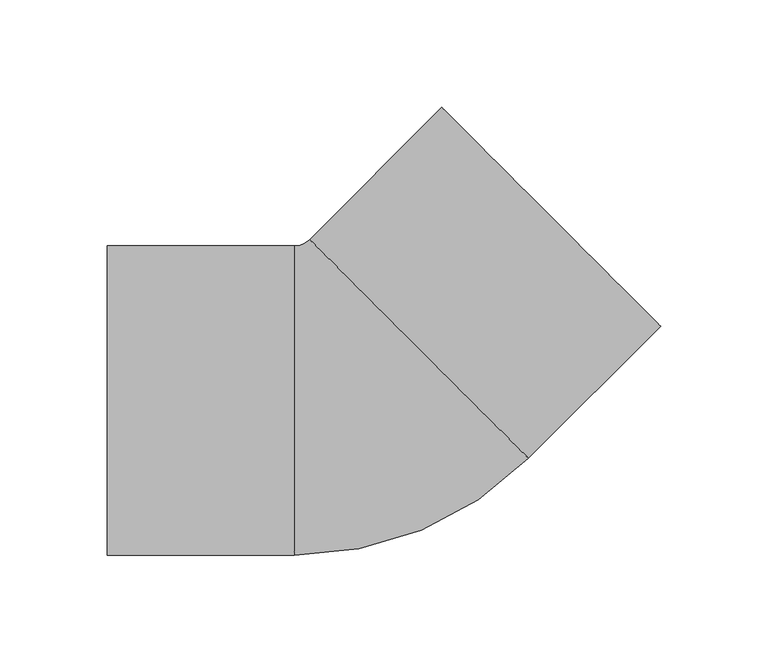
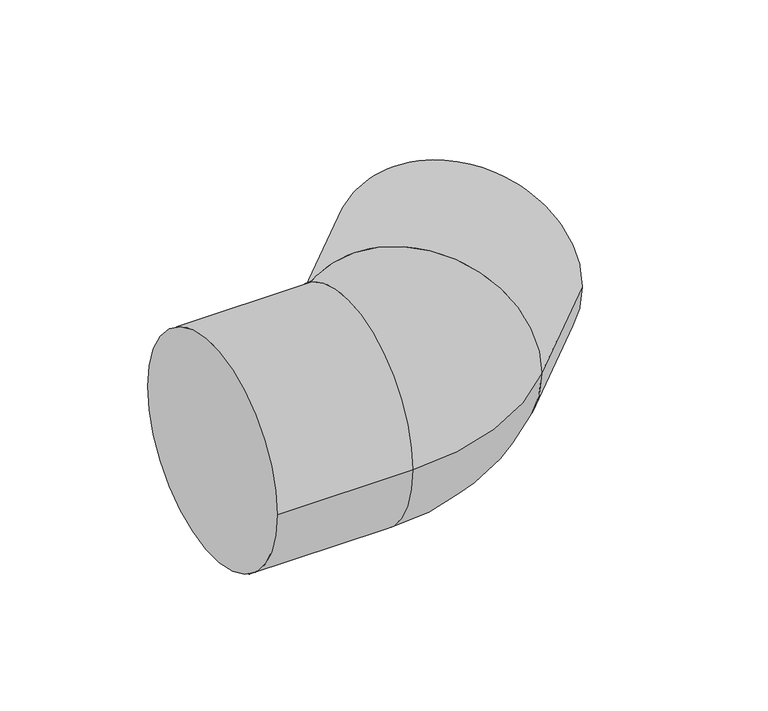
"""IFC4 building model written with IfcOpenShell, lengths in millimetres: pipe fitting geometry, 01051067 : Coudes à 45º."""

from ifc_helpers import new_model, si_unit, point, frame, origin, place, context, project, spatial, circle_curve, ellipse_curve, trimmed, source, transform, mapped, element, save
from ifc_brep_helpers import plane_surface, cylinder_surface, revolved_surface, advanced_brep


def pipe_fitting_3c722be0(model_context):
    return source(origin(), model_context, "Body", "AdvancedBrep", [
        advanced_brep(
        [(-121.0, -72.0, 0.0), (-121.0, 72.0, 0.0), (-34.0, -72.0, 0.0), (-34.0, 72.0, 0.0), (-26.8700577, 74.9533188, 0.0), (74.9533188, -26.8700577, 0.0), (136.4716088, 34.6482323, 0.0), (34.6482323, 136.4716088, 0.0)],
        [
            (0, 1, circle_curve(frame((-121.0, 0.0, 0.0), z_axis=(-1.0, 0.0, 0.0), x_axis=(0.0, 1.0, 0.0)), 72.0)),
            (1, 0, circle_curve(frame((-121.0, 0.0, 0.0), z_axis=(-1.0, 0.0, 0.0), x_axis=(0.0, 1.0, 0.0)), 72.0)),
            (0, 2),
            (2, 3, circle_curve(frame((-34.0, 0.0, 0.0), z_axis=(-1.0, 0.0, 0.0), x_axis=(0.0, 1.0, 0.0)), 72.0)),
            (3, 1),
            (3, 2, circle_curve(frame((-34.0, 0.0, 0.0), z_axis=(-1.0, 0.0, 0.0), x_axis=(0.0, 1.0, 0.0)), 72.0)),
            (4, 3, circle_curve(frame((-34.0, 82.0832611, 0.0), z_axis=(0.0, 0.0, -1.0), x_axis=(0.0, -1.0, 0.0)), 10.0832611)),
            (2, 5, circle_curve(frame((-34.0, 82.0832611, 0.0), z_axis=(0.0, 0.0, 1.0), x_axis=(0.0, -1.0, 0.0)), 154.0832611)),
            (5, 4, circle_curve(frame((24.0416306, 24.0416306, 0.0), z_axis=(-0.7071067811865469, -0.7071067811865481, 0.0), x_axis=(-0.7071067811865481, 0.7071067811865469, 0.0)), 72.0)),
            (4, 5, circle_curve(frame((24.0416306, 24.0416306, 0.0), z_axis=(-0.7071067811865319, -0.7071067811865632, 0.0), x_axis=(-0.7071067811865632, 0.7071067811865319, 0.0)), 72.0)),
            (6, 7, circle_curve(frame((85.5599205, 85.5599205, 0.0), z_axis=(0.7071067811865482, 0.7071067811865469, 0.0), x_axis=(-0.7071067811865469, 0.7071067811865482, 0.0)), 72.0)),
            (7, 6, circle_curve(frame((85.5599205, 85.5599205, 0.0), z_axis=(0.7071067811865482, 0.7071067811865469, 0.0), x_axis=(-0.7071067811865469, 0.7071067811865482, 0.0)), 72.0)),
            (5, 6),
            (7, 4),
        ],
        [
            plane_surface(frame((-121.0, 0.0, 0.0), z_axis=(-1.0, 0.0, 0.0), x_axis=(0.0, 0.0, 1.0))),
            cylinder_surface(frame((-121.0, 0.0, 0.0), z_axis=(-1.0, 0.0, 0.0), x_axis=(0.0, 1.0, 0.0)), 72.0),
            revolved_surface(trimmed(ellipse_curve(frame((-34.0, 0.0, 0.0), z_axis=(-1.0, 0.0, 0.0), x_axis=(0.0, 1.0, 0.0)), 72.0, 72.0), [point((-34.0, -72.0, 0.0))], [point((-34.0, 72.0, 0.0))], True, "CARTESIAN"), (-34.0, 82.0832611, 0.0), (0.0, 0.0, 1.0)),
            revolved_surface(trimmed(ellipse_curve(frame((-34.0, 0.0, 0.0), z_axis=(-1.0, 0.0, 0.0), x_axis=(0.0, 1.0, 0.0)), 72.0, 72.0), [point((-34.0, 72.0, 0.0))], [point((-34.0, -72.0, 0.0))], True, "CARTESIAN"), (-34.0, 82.0832611, 0.0), (0.0, 0.0, 1.0)),
            plane_surface(frame((85.5599205, 85.5599205, 0.0), z_axis=(0.7071067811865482, 0.7071067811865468, 0.0), x_axis=(0.0, 0.0, 1.0))),
            cylinder_surface(frame((24.0416306, 24.0416306, 0.0), z_axis=(-0.7071067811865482, -0.7071067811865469, 0.0), x_axis=(-0.7071067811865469, 0.7071067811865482, 0.0)), 72.0),
        ],
        [
            (0, [[1, 2]]),
            (1, [[-1, 3, 4, 5]]),
            (1, [[-2, -5, 6, -3]]),
            (2, [[7, -4, 8, 9]]),
            (3, [[-8, -6, -7, 10]]),
            (4, [[11, 12]]),
            (5, [[-9, 13, -12, 14]]),
            (5, [[-10, -14, -11, -13]]),
        ],
    ),
    ])


if __name__ == "__main__":
    model = new_model("IFC4")
    model_context = context("Model", 3, world=origin())
    ifc_project = project(units=[si_unit("LENGTHUNIT", "METRE", prefix="MILLI")], contexts=[model_context])
    site = spatial("IfcSite", under=ifc_project)
    building = spatial("IfcBuilding", under=site)
    placement = place(None, origin())
    pipe_fitting_shape = pipe_fitting_3c722be0(model_context)
    element("IfcPipeFitting", 1, ObjectType="01051067 : Coudes à 45º", at=placement, inside=building, context=model_context, shape_type="MappedRepresentation", body=[
        mapped(pipe_fitting_shape, transform((0.0, 0.0, 0.0), x_axis=(1.0, 0.0, 0.0), y_axis=(0.0, 1.0, 0.0), z_axis=(0.0, 0.0, 1.0))),
    ])
    save(model, "model.ifc")
